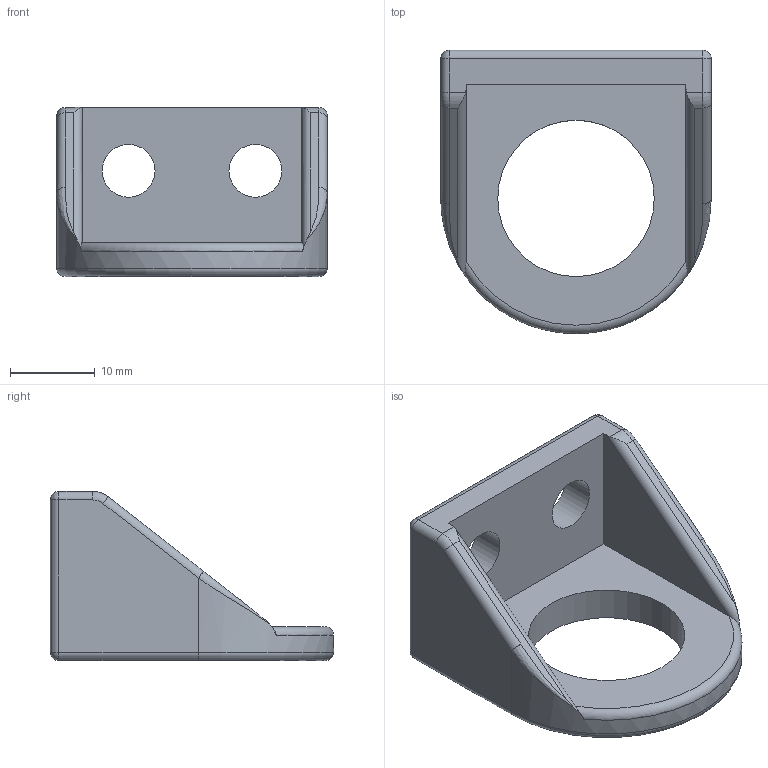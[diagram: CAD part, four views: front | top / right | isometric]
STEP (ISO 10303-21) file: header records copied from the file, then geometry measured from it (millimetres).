
FILE_DESCRIPTION (( 'STEP AP214' ), '1' );
FILE_NAME ('L19169.step', '2024-12-03T16:23:13', ( '' ), ( '' ), 'SwSTEP 2.0', 'SolidWorks 2023', '' );
FILE_SCHEMA (( 'AUTOMOTIVE_DESIGN' ));
Length unit declared in the file: millimetre
Products named in the file (1): L19169
Bounding box: 32 x 33.5 x 20 mm (x, y, z)
Volume: 5673 mm3; surface area: 3855.2 mm2
Topology: 1 solids, 1 shells, 39 faces, 96 edges, 55 vertices
Faces by surface type: cylinder 18, plane 11, torus 4, sphere 4, bspline 2
Full cylindrical faces by diameter (mm): 6.25 x2, 18.5 x1
Entity records: 1415 total; most frequent: CARTESIAN_POINT 528, DIRECTION 178, ORIENTED_EDGE 176, EDGE_CURVE 88, AXIS2_PLACEMENT_3D 70, VERTEX_POINT 54, EDGE_LOOP 48, FACE_OUTER_BOUND 42
